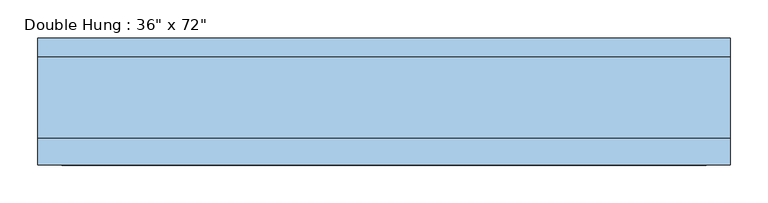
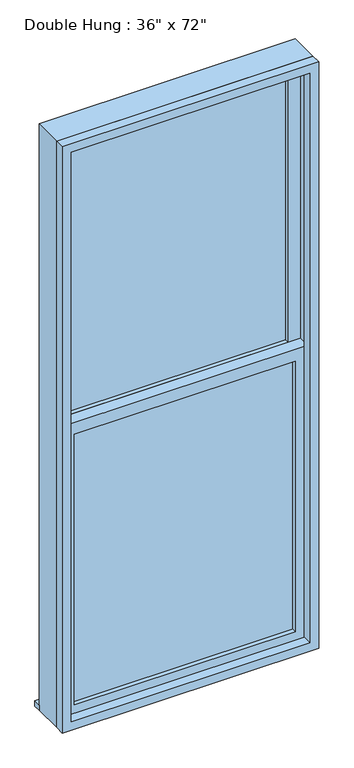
"""IFC4 building model written with IfcOpenShell, lengths in millimetres: window geometry."""

from ifc_helpers import new_model, si_unit, frame, origin, place, context, project, spatial, polyline, outline, extrude, source, transform, mapped, element, save


def window_2fa36e41(model_context):
    return source(origin(), model_context, "Body", "SweptSolid", [
        extrude(outline(polyline([(-393.7, -7.9375), (393.7, -7.9375), (393.7, -20.6375), (-393.7, -20.6375), (-393.7, -7.9375)])), frame((0.0, 0.0, 368.3), z_axis=(0.0, 0.0, 1.0), x_axis=(1.0, 0.0, 0.0)), (0.0, 0.0, 1.0), 1019.175),
        extrude(outline(polyline([(1431.925, -438.15), (323.85, -438.15), (323.85, 438.15), (1431.925, 438.15), (1431.925, -438.15)]), holes=[polyline([(1387.475, -393.7), (1387.475, 393.7), (368.3, 393.7), (368.3, -393.7), (1387.475, -393.7)])]), frame((0.0, -36.5125, 0.0), z_axis=(0.0, 1.0, 0.0), x_axis=(0.0, 0.0, 1.0)), (0.0, 0.0, 1.0), 44.45),
        extrude(outline(polyline([(-457.2, 96.8375), (457.2, 96.8375), (457.2, 71.4375), (-457.2, 71.4375), (-457.2, 96.8375)])), frame((0.0, 0.0, 304.8), z_axis=(0.0, 0.0, 1.0), x_axis=(1.0, 0.0, 0.0)), (0.0, 0.0, 1.0), 19.05),
        extrude(outline(polyline([(393.7, 23.8125), (-393.7, 23.8125), (-393.7, 36.5125), (393.7, 36.5125), (393.7, 23.8125)])), frame((0.0, 0.0, 1431.925), z_axis=(0.0, 0.0, 1.0), x_axis=(1.0, 0.0, 0.0)), (0.0, 0.0, 1.0), 1019.175),
        extrude(outline(polyline([(2495.55, -438.15), (1387.475, -438.15), (1387.475, 438.15), (2495.55, 438.15), (2495.55, -438.15)]), holes=[polyline([(2451.1, -393.7), (2451.1, 393.7), (1431.925, 393.7), (1431.925, -393.7), (2451.1, -393.7)])]), frame((0.0, 7.9375, 0.0), z_axis=(0.0, 1.0, 0.0), x_axis=(0.0, 0.0, 1.0)), (0.0, 0.0, 1.0), 44.45),
        extrude(outline(polyline([(2514.6, -457.2), (304.8, -457.2), (304.8, 457.2), (2514.6, 457.2), (2514.6, -457.2)]), holes=[polyline([(2482.85, -425.45), (2482.85, 425.45), (336.55, 425.45), (336.55, -425.45), (2482.85, -425.45)])]), frame((0.0, -71.4375, 0.0), z_axis=(0.0, 1.0, 0.0), x_axis=(0.0, 0.0, 1.0)), (0.0, 0.0, 1.0), 34.925),
        extrude(outline(polyline([(2514.6, 457.2), (2514.6, -457.2), (304.8, -457.2), (304.8, 457.2), (2514.6, 457.2)]), holes=[polyline([(2495.55, 438.15), (323.85, 438.15), (323.85, -438.15), (2495.55, -438.15), (2495.55, 438.15)])]), frame((0.0, -36.5125, 0.0), z_axis=(0.0, 1.0, 0.0), x_axis=(0.0, 0.0, 1.0)), (0.0, 0.0, 1.0), 107.95),
    ])


if __name__ == "__main__":
    model = new_model("IFC4")
    model_context = context("Model", 3, world=origin())
    ifc_project = project(units=[si_unit("LENGTHUNIT", "METRE", prefix="MILLI")], contexts=[model_context])
    site = spatial("IfcSite", under=ifc_project)
    building = spatial("IfcBuilding", under=site)
    placement = place(None, origin())
    window_shape = window_2fa36e41(model_context)
    element("IfcWindow", 1, ObjectType="Double Hung : 36\" x 72\"", at=placement, inside=building, context=model_context, shape_type="MappedRepresentation", body=[
        mapped(window_shape, transform((0.0, 0.0, 0.0), x_axis=(1.0, 0.0, 0.0), y_axis=(0.0, 1.0, 0.0), z_axis=(0.0, 0.0, 1.0))),
    ])
    save(model, "model.ifc")
